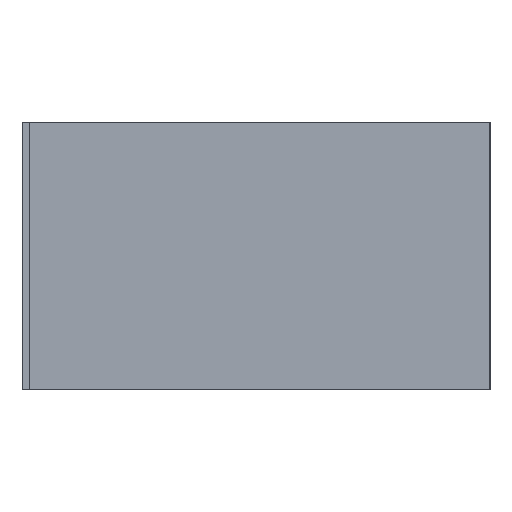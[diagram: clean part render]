
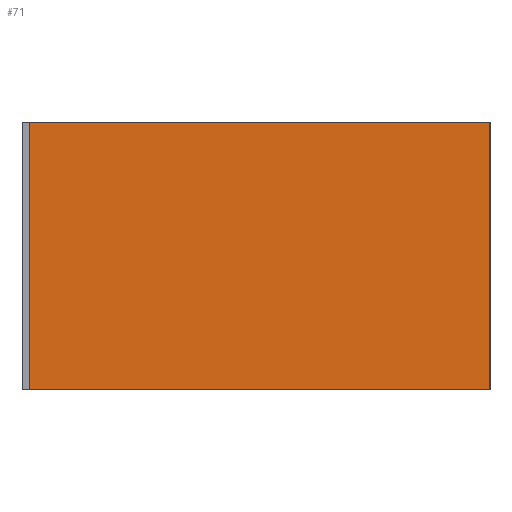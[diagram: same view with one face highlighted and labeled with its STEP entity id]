
A CAD part, left-side view. The second image highlights one B-rep face of the part: STEP entity #71.
In plain terms, the highlighted planar face has unit normal (-1, 0, 0).
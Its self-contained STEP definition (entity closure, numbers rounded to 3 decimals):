
#6 = CARTESIAN_POINT ( 'NONE',  ( -256.8, -5.699, 0. ) ) ;
#9 = EDGE_CURVE ( 'NONE', #133, #301, #159, .T. ) ;
#32 = EDGE_CURVE ( 'NONE', #133, #364, #225, .T. ) ;
#46 = AXIS2_PLACEMENT_3D ( 'NONE', #58, #134, #110 ) ;
#49 = ORIENTED_EDGE ( 'NONE', *, *, #32, .F. ) ;
#50 = CARTESIAN_POINT ( 'NONE',  ( -256.8, 11.5, 10. ) ) ;
#58 = CARTESIAN_POINT ( 'NONE',  ( -256.8, 0., 10. ) ) ;
#71 = ADVANCED_FACE ( 'NONE', ( #88 ), #224, .T. ) ;
#76 = CARTESIAN_POINT ( 'NONE',  ( -256.8, 0., 10. ) ) ;
#77 = CARTESIAN_POINT ( 'NONE',  ( -256.8, 11.5, 10. ) ) ;
#85 = CARTESIAN_POINT ( 'NONE',  ( -256.8, 0., 0. ) ) ;
#88 = FACE_OUTER_BOUND ( 'NONE', #127, .T. ) ;
#110 = DIRECTION ( 'NONE',  ( 0., 0., 1. ) ) ;
#112 = VECTOR ( 'NONE', #199, 1000. ) ;
#127 = EDGE_LOOP ( 'NONE', ( #281, #49, #213, #296 ) ) ;
#133 = VERTEX_POINT ( 'NONE', #284 ) ;
#134 = DIRECTION ( 'NONE',  ( -1., 0., 0. ) ) ;
#159 = LINE ( 'NONE', #76, #271 ) ;
#185 = DIRECTION ( 'NONE',  ( 0., 0., -1. ) ) ;
#192 = DIRECTION ( 'NONE',  ( 0., 0., -1. ) ) ;
#199 = DIRECTION ( 'NONE',  ( 0., 1., 0. ) ) ;
#213 = ORIENTED_EDGE ( 'NONE', *, *, #9, .T. ) ;
#216 = LINE ( 'NONE', #77, #322 ) ;
#217 = VERTEX_POINT ( 'NONE', #266 ) ;
#224 = PLANE ( 'NONE',  #46 ) ;
#225 = LINE ( 'NONE', #341, #313 ) ;
#264 = LINE ( 'NONE', #85, #112 ) ;
#266 = CARTESIAN_POINT ( 'NONE',  ( -256.8, 11.5, 0. ) ) ;
#271 = VECTOR ( 'NONE', #278, 1000. ) ;
#278 = DIRECTION ( 'NONE',  ( 0., 1., 0. ) ) ;
#281 = ORIENTED_EDGE ( 'NONE', *, *, #362, .F. ) ;
#284 = CARTESIAN_POINT ( 'NONE',  ( -256.8, -5.699, 10. ) ) ;
#296 = ORIENTED_EDGE ( 'NONE', *, *, #300, .T. ) ;
#300 = EDGE_CURVE ( 'NONE', #301, #217, #216, .T. ) ;
#301 = VERTEX_POINT ( 'NONE', #50 ) ;
#313 = VECTOR ( 'NONE', #192, 1000. ) ;
#322 = VECTOR ( 'NONE', #185, 1000. ) ;
#341 = CARTESIAN_POINT ( 'NONE',  ( -256.8, -5.699, 10. ) ) ;
#362 = EDGE_CURVE ( 'NONE', #364, #217, #264, .T. ) ;
#364 = VERTEX_POINT ( 'NONE', #6 ) ;
